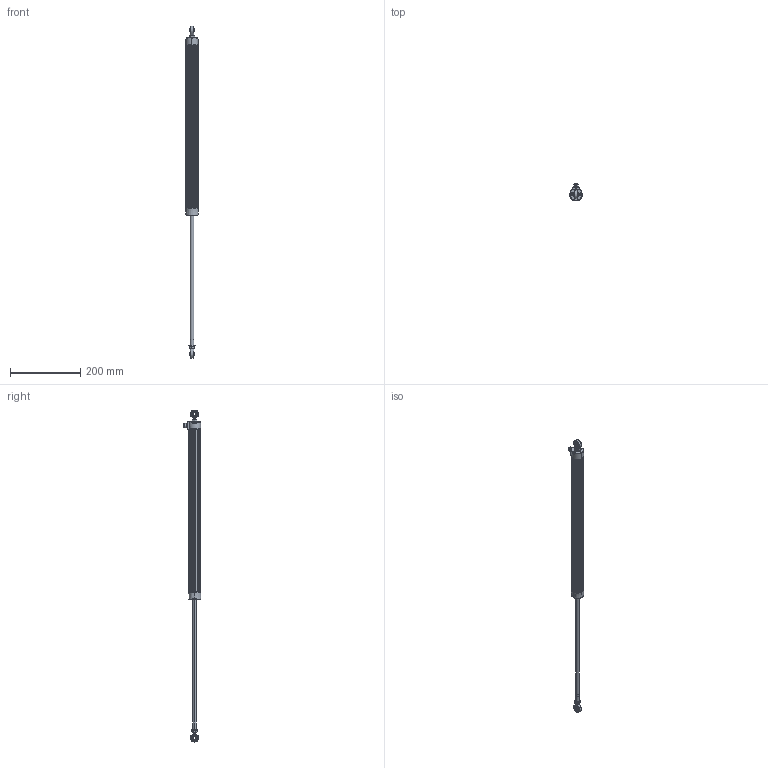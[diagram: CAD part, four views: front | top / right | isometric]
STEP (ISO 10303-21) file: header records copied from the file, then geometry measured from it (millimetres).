
FILE_DESCRIPTION (( 'STEP AP214' ), '1' );
FILE_NAME ('0360.STEP', '2009-01-29T10:05:55', ( 'novotechnik' ), ( 'novotechnik' ), 'SwSTEP 2.0', 'SolidWorks 2009', '' );
FILE_SCHEMA (( 'AUTOMOTIVE_DESIGN' ));
Length unit declared in the file: millimetre
Products named in the file (3): 0360_Bew; 0360
Assembly tree (2 placements, depth 2):
  0360
    0360
    0360_Bew
Bounding box: 35.03 x 49.52 x 942.6 mm (x, y, z)
Volume: 511118.4 mm3; surface area: 106606.1 mm2
Topology: 16 solids, 16 shells, 996 faces, 2527 edges, 1581 vertices
Faces by surface type: cylinder 326, plane 294, bspline 187, cone 169, torus 12, sphere 8
Entity records: 50868 total; most frequent: CARTESIAN_POINT 17017, ORIENTED_EDGE 5026, DIRECTION 4525, EDGE_CURVE 2513, AXIS2_PLACEMENT_3D 1757, VERTEX_POINT 1581, EDGE_LOOP 1064, VECTOR 1011
